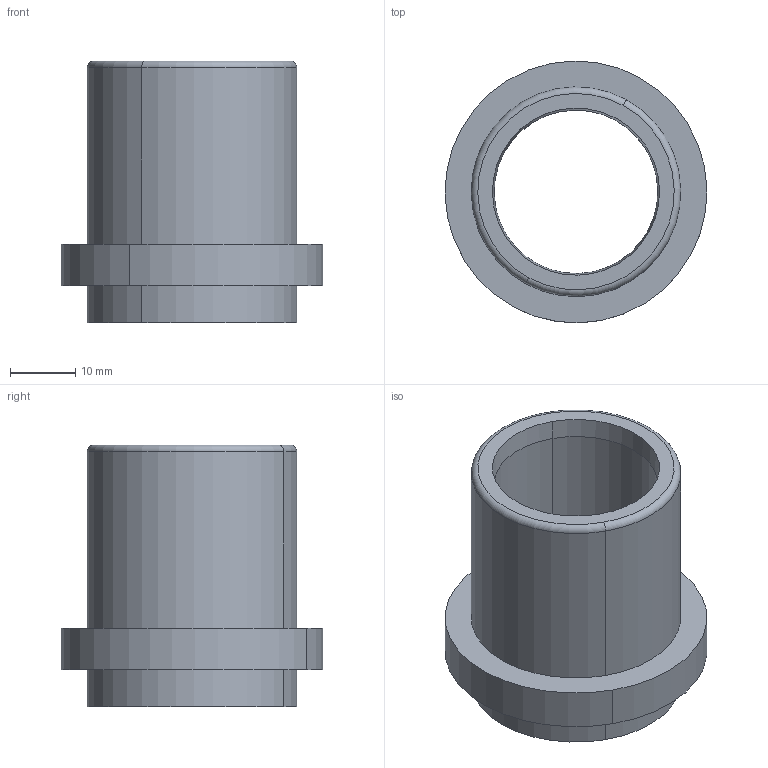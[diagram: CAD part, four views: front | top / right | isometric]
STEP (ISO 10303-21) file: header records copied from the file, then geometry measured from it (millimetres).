
FILE_DESCRIPTION(('CATIA V5 STEP Exchange','CAx-IF Rec.Pracs.--- Model Styling and Organization---1.5--- 2016-08-15','CAx-IF Rec.Pracs.---Supplemental Geometry---1.0---2011-11-01','CAx-IF Rec.Pracs.--- Composite Materials ---1.1---2010-07-15','CAx-IF Rec.Pracs.---External References---2.1---2005-01-19'),'2;1');
FILE_NAME('E:\WAT\Sprezarka\121_00_00_Tlocznik1\Tlocznik1_KPL\Tlocznik1_stp\2082_70_025.stp','2023-08-01T08:49:43+00:00',('none'),('none'),'CATIA Version 5-6 Release 2022 SP3','CATIA V5 STEP AP214 v2','none');
FILE_SCHEMA(('AUTOMOTIVE_DESIGN { 1 0 10303 214 1 1 1 1 }'));
Length unit declared in the file: millimetre
Products named in the file (1): 2082_70_025
Bounding box: 39.99 x 39.99 x 40 mm (x, y, z)
Volume: 15172.8 mm3; surface area: 8694.5 mm2
Topology: 1 solids, 1 shells, 18 faces, 36 edges, 22 vertices
Faces by surface type: cylinder 8, torus 4, plane 4, cone 2
Entity records: 437 total; most frequent: ORIENTED_EDGE 72, CARTESIAN_POINT 69, DIRECTION 56, AXIS2_PLACEMENT_3D 37, EDGE_CURVE 36, CIRCLE 26, EDGE_LOOP 22, VERTEX_POINT 22
